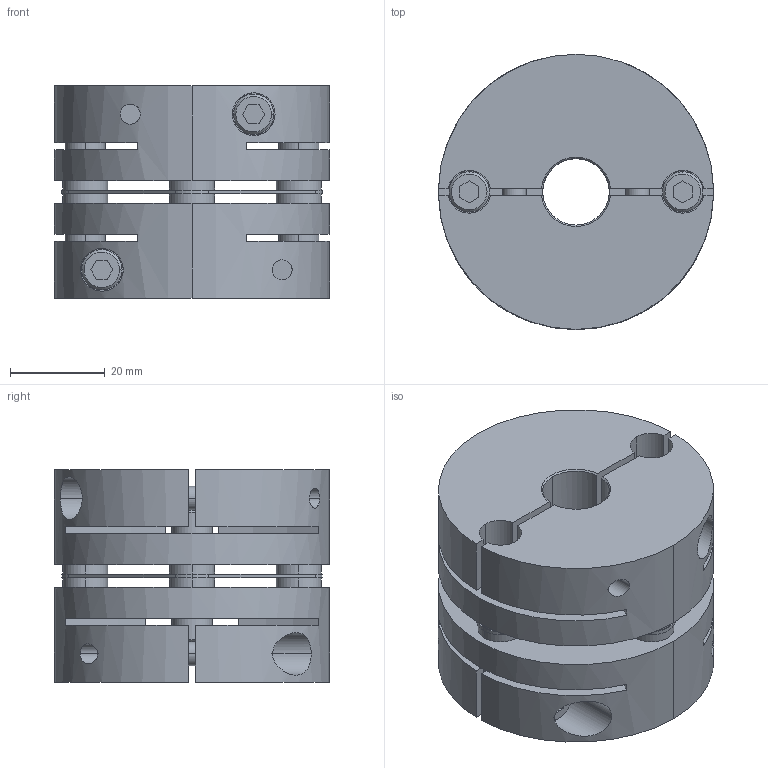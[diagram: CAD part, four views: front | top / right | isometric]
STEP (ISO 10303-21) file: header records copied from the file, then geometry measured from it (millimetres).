
FILE_DESCRIPTION((''),'2;1');
FILE_NAME('LAS-58C-14×22.stp','2015-10-15T14:46:34',(''),(''),'AutoCAD STEP 2000i','AutoCAD 2000i',', , ');
FILE_SCHEMA(('CONFIG_CONTROL_DESIGN'));
Length unit declared in the file: millimetre
Products named in the file (6): LAS-58C-12×19; 忣兜1; LA-5802-D19; LA-5802-D12-1; LA-5802-D12; LAS58-ITA
Assembly tree (5 placements, depth 2):
  LAS-58C-12×19
    忣兜1
    LA-5802-D19
    LA-5802-D12-1
    LA-5802-D12
    LAS58-ITA
Bounding box: 58 x 58 x 44.8 mm (x, y, z)
Volume: 85845.4 mm3; surface area: 33126.7 mm2
Topology: 1 solids, 1 shells, 238 faces, 618 edges, 404 vertices
Faces by surface type: plane 114, cylinder 96, cone 28
Entity records: 8213 total; most frequent: CARTESIAN_POINT 1988, DIRECTION 1316, ORIENTED_EDGE 1240, EDGE_CURVE 620, AXIS2_PLACEMENT_3D 484, VERTEX_POINT 404, VECTOR 348, LINE 348
